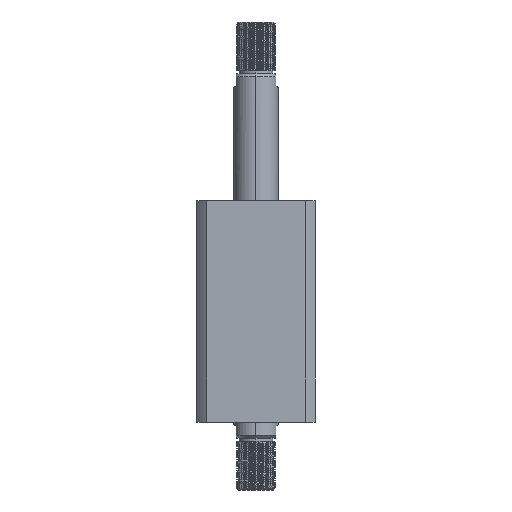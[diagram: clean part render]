
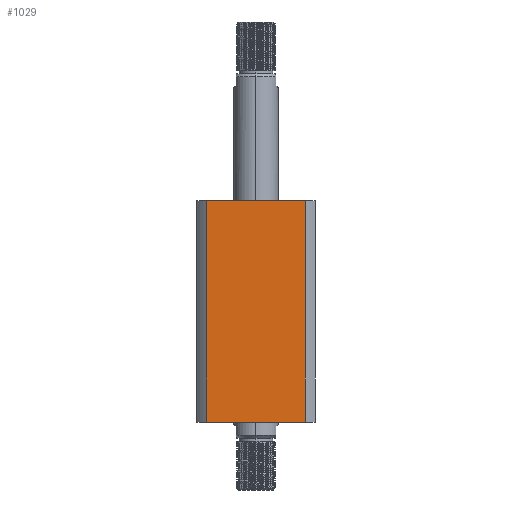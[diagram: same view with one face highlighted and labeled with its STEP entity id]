
A CAD part, left-side view. The second image highlights one B-rep face of the part: STEP entity #1029.
In plain terms, the highlighted planar face has unit normal (-1, 0, 0).
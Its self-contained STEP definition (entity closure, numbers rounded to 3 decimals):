
#456 = ORIENTED_EDGE ( 'NONE', *, *, #10966, .F. ) ;
#601 = CARTESIAN_POINT ( 'NONE',  ( -40., 33.226, 75. ) ) ;
#670 = CARTESIAN_POINT ( 'NONE',  ( -40., 33.226, 75. ) ) ;
#860 = AXIS2_PLACEMENT_3D ( 'NONE', #601, #14483, #6224 ) ;
#1029 = ADVANCED_FACE ( 'NONE', ( #3047 ), #11641, .F. ) ;
#1933 = LINE ( 'NONE', #12903, #13040 ) ;
#2200 = VERTEX_POINT ( 'NONE', #13810 ) ;
#2930 = CARTESIAN_POINT ( 'NONE',  ( -40., 33.226, -75. ) ) ;
#3047 = FACE_OUTER_BOUND ( 'NONE', #5705, .T. ) ;
#4085 = VECTOR ( 'NONE', #8756, 1000. ) ;
#5705 = EDGE_LOOP ( 'NONE', ( #16235, #10964, #456, #16231 ) ) ;
#6224 = DIRECTION ( 'NONE',  ( 0., 1., 0. ) ) ;
#6356 = CARTESIAN_POINT ( 'NONE',  ( -40., -33.226, 75. ) ) ;
#6484 = VERTEX_POINT ( 'NONE', #6356 ) ;
#7445 = DIRECTION ( 'NONE',  ( 0., 0., -1. ) ) ;
#7702 = DIRECTION ( 'NONE',  ( 0., -1., 0. ) ) ;
#8756 = DIRECTION ( 'NONE',  ( 0., -1., 0. ) ) ;
#10894 = EDGE_CURVE ( 'NONE', #6484, #15362, #1933, .T. ) ;
#10964 = ORIENTED_EDGE ( 'NONE', *, *, #10894, .F. ) ;
#10966 = EDGE_CURVE ( 'NONE', #2200, #6484, #11325, .T. ) ;
#11325 = LINE ( 'NONE', #670, #4085 ) ;
#11641 = PLANE ( 'NONE',  #860 ) ;
#12103 = VECTOR ( 'NONE', #7702, 1000. ) ;
#12737 = DIRECTION ( 'NONE',  ( 0., 0., -1. ) ) ;
#12903 = CARTESIAN_POINT ( 'NONE',  ( -40., -33.226, 75. ) ) ;
#13040 = VECTOR ( 'NONE', #7445, 1000. ) ;
#13159 = LINE ( 'NONE', #14572, #12103 ) ;
#13810 = CARTESIAN_POINT ( 'NONE',  ( -40., 33.226, 75. ) ) ;
#14090 = CARTESIAN_POINT ( 'NONE',  ( -40., 33.226, 75. ) ) ;
#14133 = VERTEX_POINT ( 'NONE', #2930 ) ;
#14208 = VECTOR ( 'NONE', #12737, 1000. ) ;
#14403 = EDGE_CURVE ( 'NONE', #14133, #15362, #13159, .T. ) ;
#14483 = DIRECTION ( 'NONE',  ( 1., 0., 0. ) ) ;
#14572 = CARTESIAN_POINT ( 'NONE',  ( -40., 33.226, -75. ) ) ;
#15318 = EDGE_CURVE ( 'NONE', #2200, #14133, #15489, .T. ) ;
#15362 = VERTEX_POINT ( 'NONE', #17094 ) ;
#15489 = LINE ( 'NONE', #14090, #14208 ) ;
#16231 = ORIENTED_EDGE ( 'NONE', *, *, #15318, .T. ) ;
#16235 = ORIENTED_EDGE ( 'NONE', *, *, #14403, .T. ) ;
#17094 = CARTESIAN_POINT ( 'NONE',  ( -40., -33.226, -75. ) ) ;
